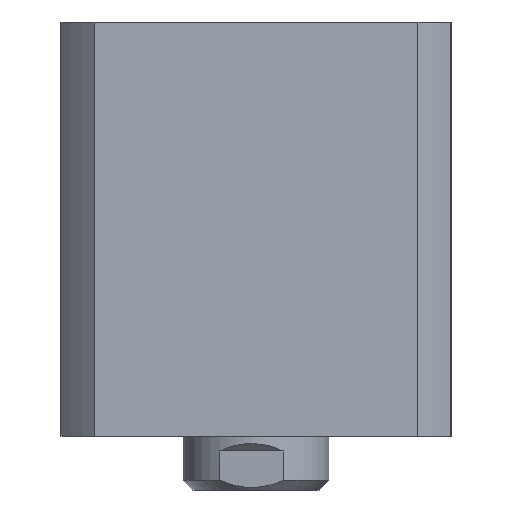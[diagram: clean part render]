
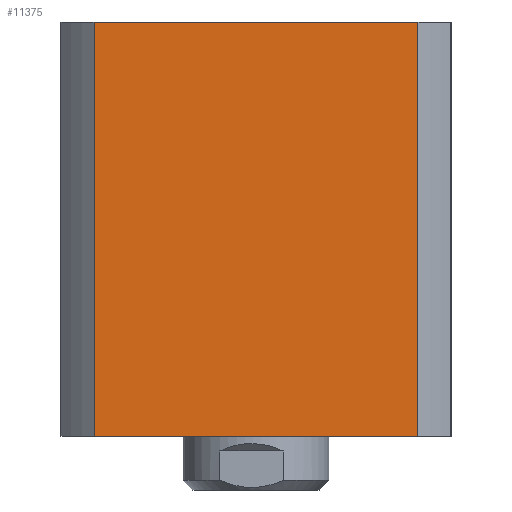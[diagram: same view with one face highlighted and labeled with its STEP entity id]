
A CAD part, left-side view. The second image highlights one B-rep face of the part: STEP entity #11375.
In plain terms, the highlighted planar face has unit normal (-1, 0, 0).
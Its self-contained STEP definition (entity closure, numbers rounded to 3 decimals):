
#382 = DIRECTION ( 'NONE',  ( 0., 0., -1. ) ) ;
#1962 = EDGE_CURVE ( 'NONE', #3440, #6890, #10818, .T. ) ;
#2057 = EDGE_CURVE ( 'NONE', #8527, #6890, #6254, .T. ) ;
#2938 = CARTESIAN_POINT ( 'NONE',  ( -40., 33.226, 42.5 ) ) ;
#3275 = VERTEX_POINT ( 'NONE', #13785 ) ;
#3299 = EDGE_CURVE ( 'NONE', #3275, #8527, #9763, .T. ) ;
#3440 = VERTEX_POINT ( 'NONE', #12163 ) ;
#4873 = VECTOR ( 'NONE', #382, 1000. ) ;
#5214 = CARTESIAN_POINT ( 'NONE',  ( -40., -33.226, 42.5 ) ) ;
#5226 = CARTESIAN_POINT ( 'NONE',  ( -40., 33.226, 42.5 ) ) ;
#5958 = DIRECTION ( 'NONE',  ( 0., -1., 0. ) ) ;
#6254 = LINE ( 'NONE', #5214, #9775 ) ;
#6264 = VECTOR ( 'NONE', #10678, 1000. ) ;
#6358 = PLANE ( 'NONE',  #12477 ) ;
#6568 = VECTOR ( 'NONE', #5958, 1000. ) ;
#6578 = CARTESIAN_POINT ( 'NONE',  ( -40., -33.226, -42.5 ) ) ;
#6890 = VERTEX_POINT ( 'NONE', #6578 ) ;
#6922 = CARTESIAN_POINT ( 'NONE',  ( -40., 33.226, 42.5 ) ) ;
#7547 = FACE_OUTER_BOUND ( 'NONE', #12596, .T. ) ;
#7919 = ORIENTED_EDGE ( 'NONE', *, *, #3299, .F. ) ;
#8274 = ORIENTED_EDGE ( 'NONE', *, *, #2057, .F. ) ;
#8520 = DIRECTION ( 'NONE',  ( 0., 0., -1. ) ) ;
#8527 = VERTEX_POINT ( 'NONE', #11894 ) ;
#8822 = EDGE_CURVE ( 'NONE', #3275, #3440, #11635, .T. ) ;
#9602 = DIRECTION ( 'NONE',  ( 1., 0., 0. ) ) ;
#9763 = LINE ( 'NONE', #2938, #6568 ) ;
#9775 = VECTOR ( 'NONE', #8520, 1000. ) ;
#10678 = DIRECTION ( 'NONE',  ( 0., -1., 0. ) ) ;
#10818 = LINE ( 'NONE', #12791, #6264 ) ;
#11375 = ADVANCED_FACE ( 'NONE', ( #7547 ), #6358, .F. ) ;
#11635 = LINE ( 'NONE', #6922, #4873 ) ;
#11671 = ORIENTED_EDGE ( 'NONE', *, *, #8822, .T. ) ;
#11795 = DIRECTION ( 'NONE',  ( 0., 1., 0. ) ) ;
#11894 = CARTESIAN_POINT ( 'NONE',  ( -40., -33.226, 42.5 ) ) ;
#12163 = CARTESIAN_POINT ( 'NONE',  ( -40., 33.226, -42.5 ) ) ;
#12477 = AXIS2_PLACEMENT_3D ( 'NONE', #5226, #9602, #11795 ) ;
#12596 = EDGE_LOOP ( 'NONE', ( #13872, #8274, #7919, #11671 ) ) ;
#12791 = CARTESIAN_POINT ( 'NONE',  ( -40., 33.226, -42.5 ) ) ;
#13785 = CARTESIAN_POINT ( 'NONE',  ( -40., 33.226, 42.5 ) ) ;
#13872 = ORIENTED_EDGE ( 'NONE', *, *, #1962, .T. ) ;
